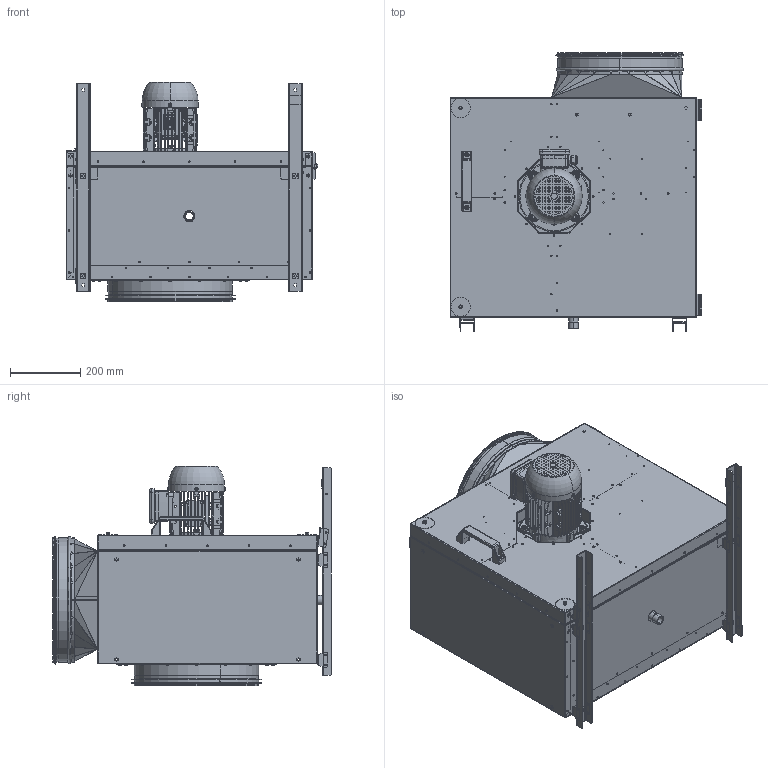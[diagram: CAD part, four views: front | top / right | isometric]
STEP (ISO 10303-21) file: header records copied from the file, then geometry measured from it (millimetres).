
FILE_DESCRIPTION (( 'STEP AP203' ), '1' );
FILE_NAME ('145840-00_MPS315D2F430_step.step', '2018-10-09T11:47:14', ( '' ), ( '' ), 'SwSTEP 2.0', 'SolidWorks 2017', '' );
FILE_SCHEMA (( 'CONFIG_CONTROL_DESIGN' ));
Products named in the file (1): 145840-00_MPS315D2F430_step
Bounding box: 715.37 x 790.34 x 624.4 mm (x, y, z)
Surface area: 7498329.9 mm2 (no closed solid volume)
Topology: 0 solids, 238 shells, 2608 faces, 11713 edges, 8994 vertices
Faces by surface type: plane 1459, cylinder 844, torus 116, bspline 100, cone 89
Entity records: 127696 total; most frequent: CARTESIAN_POINT 35327, DIRECTION 18554, ORIENTED_EDGE 16195, EDGE_CURVE 11712, VERTEX_POINT 8994, VECTOR 7022, LINE 7022, AXIS2_PLACEMENT_3D 5766
